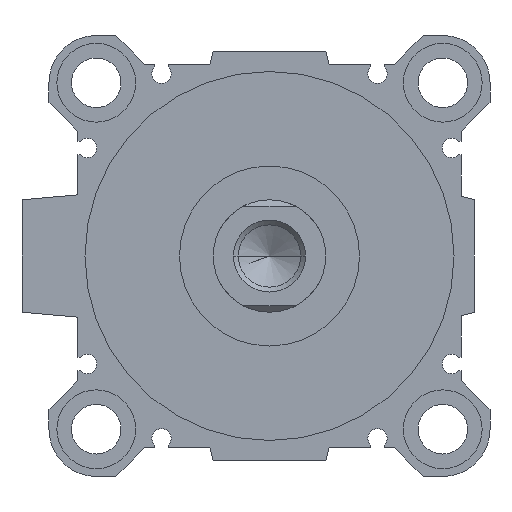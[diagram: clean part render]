
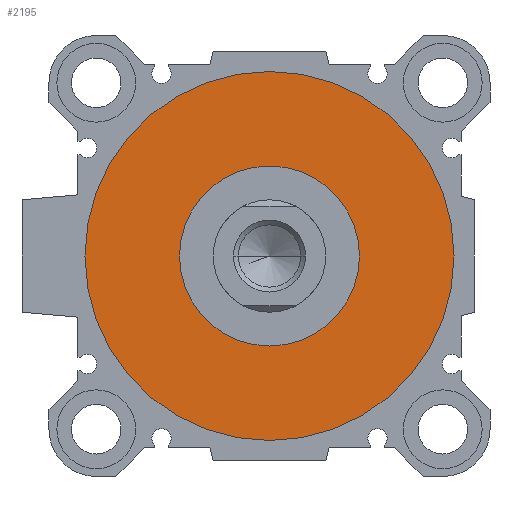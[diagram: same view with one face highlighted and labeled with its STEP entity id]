
A CAD part, left-side view. The second image highlights one B-rep face of the part: STEP entity #2195.
In plain terms, the highlighted planar face has unit normal (-1, 0, 0).
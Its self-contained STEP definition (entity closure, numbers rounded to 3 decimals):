
#4 = CARTESIAN_POINT ( 'NONE',  ( 5., 0., 0. ) ) ;
#32 = AXIS2_PLACEMENT_3D ( 'NONE', #1413, #2747, #2259 ) ;
#91 = CARTESIAN_POINT ( 'NONE',  ( 5., 0., 0. ) ) ;
#440 = CARTESIAN_POINT ( 'NONE',  ( 5., 0., 20. ) ) ;
#522 = CARTESIAN_POINT ( 'NONE',  ( 5., 0., -20. ) ) ;
#616 = CIRCLE ( 'NONE', #4648, 41. ) ;
#698 = AXIS2_PLACEMENT_3D ( 'NONE', #91, #3401, #1784 ) ;
#1173 = EDGE_LOOP ( 'NONE', ( #2711, #3260 ) ) ;
#1254 = DIRECTION ( 'NONE',  ( 1., 0., 0. ) ) ;
#1260 = EDGE_CURVE ( 'NONE', #1704, #4386, #5175, .T. ) ;
#1282 = FACE_BOUND ( 'NONE', #1173, .T. ) ;
#1413 = CARTESIAN_POINT ( 'NONE',  ( 5., 0., 0. ) ) ;
#1506 = CIRCLE ( 'NONE', #32, 41. ) ;
#1613 = FACE_OUTER_BOUND ( 'NONE', #1891, .T. ) ;
#1672 = DIRECTION ( 'NONE',  ( 1., 0., 0. ) ) ;
#1704 = VERTEX_POINT ( 'NONE', #522 ) ;
#1784 = DIRECTION ( 'NONE',  ( 0., 0., -1. ) ) ;
#1891 = EDGE_LOOP ( 'NONE', ( #3041, #4896 ) ) ;
#1996 = PLANE ( 'NONE',  #3602 ) ;
#2086 = DIRECTION ( 'NONE',  ( 0., 0., -1. ) ) ;
#2195 = ADVANCED_FACE ( 'NONE', ( #1613, #1282 ), #1996, .F. ) ;
#2259 = DIRECTION ( 'NONE',  ( 0., 0., -1. ) ) ;
#2282 = VERTEX_POINT ( 'NONE', #2517 ) ;
#2517 = CARTESIAN_POINT ( 'NONE',  ( 5., 0., -41. ) ) ;
#2711 = ORIENTED_EDGE ( 'NONE', *, *, #2774, .T. ) ;
#2747 = DIRECTION ( 'NONE',  ( 1., 0., 0. ) ) ;
#2771 = VERTEX_POINT ( 'NONE', #4117 ) ;
#2774 = EDGE_CURVE ( 'NONE', #4386, #1704, #4471, .T. ) ;
#2873 = DIRECTION ( 'NONE',  ( 0., 1., 0. ) ) ;
#3041 = ORIENTED_EDGE ( 'NONE', *, *, #4483, .F. ) ;
#3139 = EDGE_CURVE ( 'NONE', #2282, #2771, #616, .T. ) ;
#3260 = ORIENTED_EDGE ( 'NONE', *, *, #1260, .T. ) ;
#3262 = DIRECTION ( 'NONE',  ( 1., 0., 0. ) ) ;
#3401 = DIRECTION ( 'NONE',  ( 1., 0., 0. ) ) ;
#3602 = AXIS2_PLACEMENT_3D ( 'NONE', #4611, #3262, #2873 ) ;
#3809 = CARTESIAN_POINT ( 'NONE',  ( 5., 0., 0. ) ) ;
#4117 = CARTESIAN_POINT ( 'NONE',  ( 5., 0., 41. ) ) ;
#4386 = VERTEX_POINT ( 'NONE', #440 ) ;
#4471 = CIRCLE ( 'NONE', #4644, 20. ) ;
#4483 = EDGE_CURVE ( 'NONE', #2771, #2282, #1506, .T. ) ;
#4608 = DIRECTION ( 'NONE',  ( 0., 0., -1. ) ) ;
#4611 = CARTESIAN_POINT ( 'NONE',  ( 5., 0., 0. ) ) ;
#4644 = AXIS2_PLACEMENT_3D ( 'NONE', #3809, #1672, #2086 ) ;
#4648 = AXIS2_PLACEMENT_3D ( 'NONE', #4, #1254, #4608 ) ;
#4896 = ORIENTED_EDGE ( 'NONE', *, *, #3139, .F. ) ;
#5175 = CIRCLE ( 'NONE', #698, 20. ) ;
